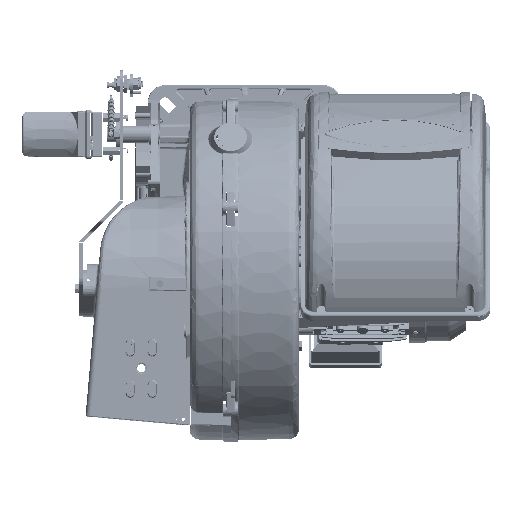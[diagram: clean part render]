
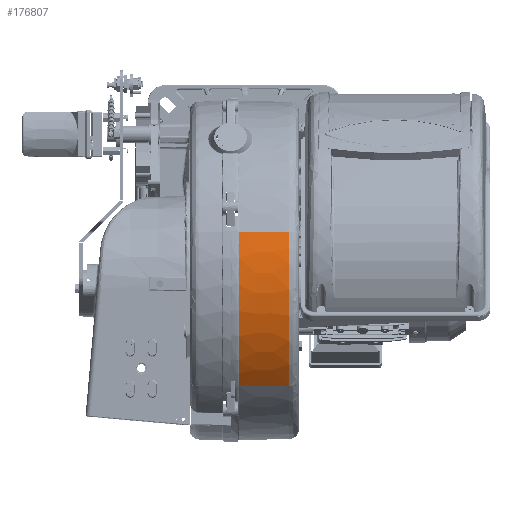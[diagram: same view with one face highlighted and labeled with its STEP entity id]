
A CAD part, top view. The second image highlights one B-rep face of the part: STEP entity #176807.
In plain terms, the highlighted free-form (B-spline) face has degree [3, 3] with [11, 4] control points.
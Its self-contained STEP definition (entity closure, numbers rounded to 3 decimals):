
#467 = CARTESIAN_POINT ( 'NONE',  ( -8.017, -274.897, 851.91 ) ) ;
#2710 = CARTESIAN_POINT ( 'NONE',  ( 65.253, -192.721, 887.086 ) ) ;
#16717 = CARTESIAN_POINT ( 'NONE',  ( -8.017, -249.121, 867.275 ) ) ;
#23604 = CARTESIAN_POINT ( 'NONE',  ( -8.017, -103.588, 893.851 ) ) ;
#24678 = CARTESIAN_POINT ( 'NONE',  ( 16.406, -192.924, 887.916 ) ) ;
#25747 = CARTESIAN_POINT ( 'NONE',  ( 40.83, -274.417, 851.203 ) ) ;
#26922 = CARTESIAN_POINT ( 'NONE',  ( 65.253, -289.944, 838.699 ) ) ;
#28005 = CARTESIAN_POINT ( 'NONE',  ( 65.253, -133.544, 894.288 ) ) ;
#31819 = VERTEX_POINT ( 'NONE', #123264 ) ;
#42035 = CARTESIAN_POINT ( 'NONE',  ( -8.017, -290.752, 839.692 ) ) ;
#48911 = CARTESIAN_POINT ( 'NONE',  ( 40.83, -103.688, 893.002 ) ) ;
#49956 = CARTESIAN_POINT ( 'NONE',  ( 65.253, -192.721, 887.086 ) ) ;
#51053 = CARTESIAN_POINT ( 'NONE',  ( -8.017, -290.752, 839.692 ) ) ;
#53317 = CARTESIAN_POINT ( 'NONE',  ( 65.253, -84.151, 889.087 ) ) ;
#58692 = CARTESIAN_POINT ( 'NONE',  ( 65.253, -74.506, 886.771 ) ) ;
#61594 = FACE_OUTER_BOUND ( 'NONE', #143710, .T. ) ;
#64642 = CARTESIAN_POINT ( 'NONE',  ( -8.017, -74.179, 888.007 ) ) ;
#66195 = EDGE_CURVE ( 'NONE', #120872, #31819, #159245, .T. ) ;
#73192 = CARTESIAN_POINT ( 'NONE',  ( 16.406, -74.278, 887.593 ) ) ;
#74278 = CARTESIAN_POINT ( 'NONE',  ( -8.017, -133.547, 895.57 ) ) ;
#75344 = CARTESIAN_POINT ( 'NONE',  ( 16.406, -221.55, 879.074 ) ) ;
#76409 = CARTESIAN_POINT ( 'NONE',  ( 40.83, -290.218, 839.027 ) ) ;
#84011 = CARTESIAN_POINT ( 'NONE',  ( 16.406, -74.288, 887.595 ) ) ;
#86396 = ORIENTED_EDGE ( 'NONE', *, *, #228006, .T. ) ;
#91578 = CARTESIAN_POINT ( 'NONE',  ( -8.017, -74.179, 888.007 ) ) ;
#95889 = ORIENTED_EDGE ( 'NONE', *, *, #66195, .F. ) ;
#98434 = CARTESIAN_POINT ( 'NONE',  ( -8.017, -74.179, 888.007 ) ) ;
#99499 = CARTESIAN_POINT ( 'NONE',  ( 40.83, -133.545, 894.716 ) ) ;
#100567 = CARTESIAN_POINT ( 'NONE',  ( 65.253, -221.249, 878.274 ) ) ;
#101629 = CARTESIAN_POINT ( 'NONE',  ( -8.017, -298.281, 833.141 ) ) ;
#108104 = CARTESIAN_POINT ( 'NONE',  ( 40.83, -74.397, 887.183 ) ) ;
#114072 = CARTESIAN_POINT ( 'NONE',  ( -8.017, -298.281, 833.141 ) ) ;
#114657 = CARTESIAN_POINT ( 'NONE',  ( -8.017, -83.883, 890.339 ) ) ;
#116835 = CARTESIAN_POINT ( 'NONE',  ( -8.017, -103.588, 893.851 ) ) ;
#120872 = VERTEX_POINT ( 'NONE', #243520 ) ;
#123264 = CARTESIAN_POINT ( 'NONE',  ( -8.017, -298.281, 833.141 ) ) ;
#123719 = CARTESIAN_POINT ( 'NONE',  ( 65.253, -74.477, 886.764 ) ) ;
#124785 = CARTESIAN_POINT ( 'NONE',  ( -8.017, -163.502, 893.722 ) ) ;
#125852 = CARTESIAN_POINT ( 'NONE',  ( 16.406, -248.925, 866.895 ) ) ;
#126933 = CARTESIAN_POINT ( 'NONE',  ( 40.83, -297.722, 832.498 ) ) ;
#127016 = CARTESIAN_POINT ( 'NONE',  ( 65.253, -297.432, 832.185 ) ) ;
#128106 = CARTESIAN_POINT ( 'NONE',  ( 65.253, -274.173, 850.852 ) ) ;
#142145 = CARTESIAN_POINT ( 'NONE',  ( -8.017, -163.502, 893.722 ) ) ;
#143710 = EDGE_LOOP ( 'NONE', ( #95889, #86396, #325339, #287115 ) ) ;
#149043 = CARTESIAN_POINT ( 'NONE',  ( 16.406, -83.966, 889.921 ) ) ;
#150069 = B_SPLINE_CURVE_WITH_KNOTS ( 'NONE', 3,
 ( #91578, #114657, #116835, #293128, #142145, #318448, #167482, #16717, #192754, #42035, #218147 ),
 .UNSPECIFIED., .F., .F.,
 ( 4, 1, 1, 1, 1, 1, 1, 1, 4 ),
 ( 0., 0.125, 0.25, 0.375, 0.5, 0.625, 0.75, 0.875, 1. ),
 .UNSPECIFIED. ) ;
#150083 = CARTESIAN_POINT ( 'NONE',  ( 40.83, -163.399, 892.874 ) ) ;
#151166 = CARTESIAN_POINT ( 'NONE',  ( 65.253, -248.531, 866.137 ) ) ;
#153414 = CARTESIAN_POINT ( 'NONE',  ( 65.253, -221.249, 878.274 ) ) ;
#156073 = VERTEX_POINT ( 'NONE', #176073 ) ;
#159245 = B_SPLINE_CURVE_WITH_KNOTS ( 'NONE', 3,
 ( #214311, #188959, #265036, #114072 ),
 .UNSPECIFIED., .F., .F.,
 ( 4, 4 ),
 ( 0., 1. ),
 .UNSPECIFIED. ) ;
#167482 = CARTESIAN_POINT ( 'NONE',  ( -8.017, -221.7, 879.474 ) ) ;
#171414 = B_SPLINE_CURVE_WITH_KNOTS ( 'NONE', 3,
 ( #58692, #108104, #84011, #260232 ),
 .UNSPECIFIED., .F., .F.,
 ( 4, 4 ),
 ( 0., 1. ),
 .UNSPECIFIED. ) ;
#174358 = CARTESIAN_POINT ( 'NONE',  ( 65.253, -84.132, 889.084 ) ) ;
#175428 = CARTESIAN_POINT ( 'NONE',  ( -8.017, -193.025, 888.331 ) ) ;
#176073 = CARTESIAN_POINT ( 'NONE',  ( 65.253, -74.506, 886.771 ) ) ;
#176520 = CARTESIAN_POINT ( 'NONE',  ( 16.406, -274.657, 851.557 ) ) ;
#176807 = ADVANCED_FACE ( 'NONE', ( #61594 ), #200983, .T. ) ;
#178751 = CARTESIAN_POINT ( 'NONE',  ( 65.253, -163.348, 892.449 ) ) ;
#188959 = CARTESIAN_POINT ( 'NONE',  ( 40.83, -297.715, 832.504 ) ) ;
#192754 = CARTESIAN_POINT ( 'NONE',  ( -8.017, -274.897, 851.91 ) ) ;
#196458 = EDGE_CURVE ( 'NONE', #156073, #273106, #171414, .T. ) ;
#199647 = CARTESIAN_POINT ( 'NONE',  ( 16.406, -103.638, 893.426 ) ) ;
#200728 = CARTESIAN_POINT ( 'NONE',  ( 40.83, -192.822, 887.501 ) ) ;
#200983 = B_SPLINE_SURFACE_WITH_KNOTS ( 'NONE', 3, 3, ( 
 ( #98434, #73192, #274579, #123719 ),
 ( #299969, #149043, #325315, #174358 ),
 ( #23604, #199647, #48911, #225027 ),
 ( #74278, #250431, #99499, #275669 ),
 ( #124785, #301021, #150083, #326410 ),
 ( #175428, #24678, #200728, #49956 ),
 ( #226103, #75344, #251506, #100567 ),
 ( #276751, #125852, #302117, #151166 ),
 ( #467, #176520, #25747, #201803 ),
 ( #51053, #227187, #76409, #252591 ),
 ( #101629, #277843, #126933, #303192 ) ),
 .UNSPECIFIED., .F., .F., .F.,
 ( 4, 1, 1, 1, 1, 1, 1, 1, 4 ),
 ( 4, 4 ),
 ( 0., 29.865, 59.729, 89.594, 119.459, 149.323, 179.188, 209.053, 238.917 ),
 ( 0., 73.282 ),
 .UNSPECIFIED. ) ;
#201803 = CARTESIAN_POINT ( 'NONE',  ( 65.253, -274.177, 850.85 ) ) ;
#204086 = CARTESIAN_POINT ( 'NONE',  ( 65.253, -103.747, 892.578 ) ) ;
#210242 = B_SPLINE_CURVE_WITH_KNOTS ( 'NONE', 3,
 ( #127016, #26922, #128106, #304382, #153414, #2710, #178751, #28005, #204086, #53317, #229450 ),
 .UNSPECIFIED., .F., .F.,
 ( 4, 1, 1, 1, 1, 1, 1, 1, 4 ),
 ( 0., 0.125, 0.25, 0.375, 0.5, 0.625, 0.75, 0.875, 1. ),
 .UNSPECIFIED. ) ;
#214311 = CARTESIAN_POINT ( 'NONE',  ( 65.253, -297.432, 832.185 ) ) ;
#218147 = CARTESIAN_POINT ( 'NONE',  ( -8.017, -298.281, 833.141 ) ) ;
#225027 = CARTESIAN_POINT ( 'NONE',  ( 65.253, -103.738, 892.578 ) ) ;
#226103 = CARTESIAN_POINT ( 'NONE',  ( -8.017, -221.7, 879.474 ) ) ;
#227187 = CARTESIAN_POINT ( 'NONE',  ( 16.406, -290.485, 839.36 ) ) ;
#228006 = EDGE_CURVE ( 'NONE', #120872, #156073, #210242, .T. ) ;
#229450 = CARTESIAN_POINT ( 'NONE',  ( 65.253, -74.506, 886.771 ) ) ;
#243520 = CARTESIAN_POINT ( 'NONE',  ( 65.253, -297.432, 832.185 ) ) ;
#250431 = CARTESIAN_POINT ( 'NONE',  ( 16.406, -133.546, 895.143 ) ) ;
#251506 = CARTESIAN_POINT ( 'NONE',  ( 40.83, -221.4, 878.674 ) ) ;
#252591 = CARTESIAN_POINT ( 'NONE',  ( 65.253, -289.951, 838.694 ) ) ;
#260232 = CARTESIAN_POINT ( 'NONE',  ( -8.017, -74.179, 888.007 ) ) ;
#265036 = CARTESIAN_POINT ( 'NONE',  ( 16.406, -297.998, 832.823 ) ) ;
#265268 = EDGE_CURVE ( 'NONE', #273106, #31819, #150069, .T. ) ;
#273106 = VERTEX_POINT ( 'NONE', #64642 ) ;
#274579 = CARTESIAN_POINT ( 'NONE',  ( 40.83, -74.378, 887.178 ) ) ;
#275669 = CARTESIAN_POINT ( 'NONE',  ( 65.253, -133.544, 894.288 ) ) ;
#276751 = CARTESIAN_POINT ( 'NONE',  ( -8.017, -249.121, 867.275 ) ) ;
#277843 = CARTESIAN_POINT ( 'NONE',  ( 16.406, -298.001, 832.82 ) ) ;
#287115 = ORIENTED_EDGE ( 'NONE', *, *, #265268, .T. ) ;
#293128 = CARTESIAN_POINT ( 'NONE',  ( -8.017, -133.547, 895.57 ) ) ;
#299969 = CARTESIAN_POINT ( 'NONE',  ( -8.017, -83.883, 890.339 ) ) ;
#301021 = CARTESIAN_POINT ( 'NONE',  ( 16.406, -163.451, 893.298 ) ) ;
#302117 = CARTESIAN_POINT ( 'NONE',  ( 40.83, -248.728, 866.516 ) ) ;
#303192 = CARTESIAN_POINT ( 'NONE',  ( 65.253, -297.442, 832.177 ) ) ;
#304382 = CARTESIAN_POINT ( 'NONE',  ( 65.253, -248.531, 866.137 ) ) ;
#318448 = CARTESIAN_POINT ( 'NONE',  ( -8.017, -193.025, 888.331 ) ) ;
#325315 = CARTESIAN_POINT ( 'NONE',  ( 40.83, -84.049, 889.502 ) ) ;
#325339 = ORIENTED_EDGE ( 'NONE', *, *, #196458, .T. ) ;
#326410 = CARTESIAN_POINT ( 'NONE',  ( 65.253, -163.348, 892.449 ) ) ;
